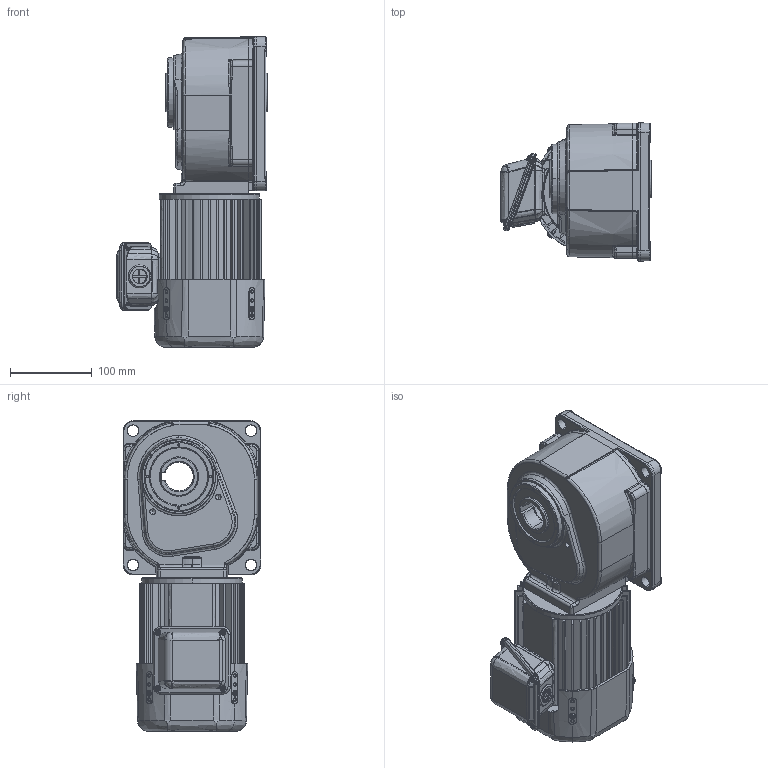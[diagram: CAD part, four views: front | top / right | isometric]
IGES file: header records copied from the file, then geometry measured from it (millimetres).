
Start section: SolidWorks IGES file using analytic representation for surfaces
Global section: file name: \\100.100.100.8\1_共有作業フォルダ\1-5_３Ｄデータ\solidworks\personal-folder\H.Nagayama\HF外形\HF(3D)\igs\TMHF-04-(5~240).IGS; native system: SolidWorks 2018; preprocessor: SolidWorks 2018; author: sigma-giken; date: 200423.112203; units: millimetre
Bounding box: 184 x 168.35 x 379.17 mm (x, y, z)
Surface area: 538628.3 mm2 (no closed solid volume)
Topology: 0 solids, 0 shells, 1923 faces, 24620 edges, 24554 vertices
Faces by surface type: bspline 1000, revolution 923
